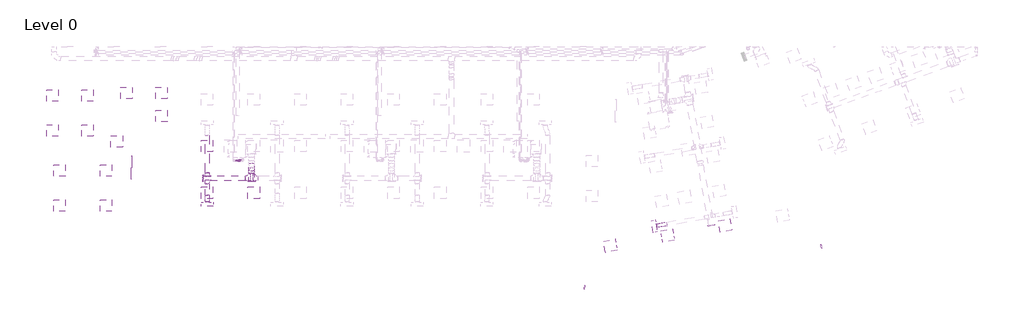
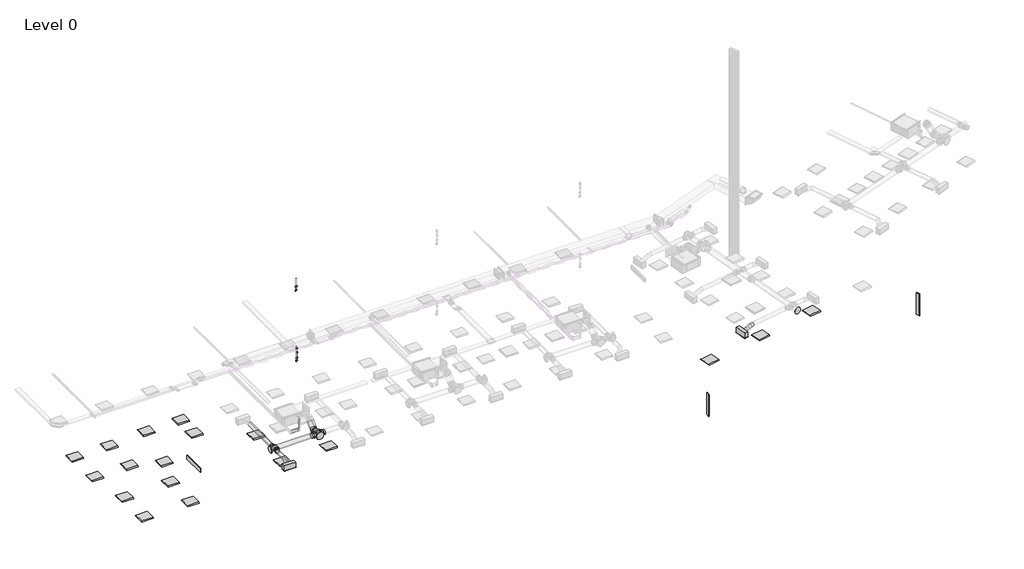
# One storey, part 1 of 34: 21 light fixtures, 8 duct fittings, 8 pipe segments, 7 duct segments, 6 pipe fittings, 2 air terminals.
"""IFC4 building model written with IfcOpenShell, lengths in millimetres."""

from ifc_helpers import new_model, si_unit, point, frame, frame_2d, origin, place, context, project, spatial, circle_curve, ellipse_curve, trimmed, segment, composite_curve, outline, extrude, transform, mapped, element, save
from ifc_brep_helpers import plane_surface, cylinder_surface, advanced_brep
from components import supply_diffuser_with_plenum_linear_slot_hosted_8c379eed, dw144_round_blank_end_standard_f82b0856, dw144_round_blank_end_standard_9aa061e7, dw144_round_segmented_bend_slip_joint_standard_8b80c5ae, dw144_round_shoe_branch_slip_joint1_standard_2_15a2edd8, dw144_round_shoe_branch_slip_joint1_standard_2_67b64720, light_fixture_1c7c1157, light_fixture_b730b5ca, light_fixture_64c2163c, elbow_threaded_gmi_standard_b4aa7741

model = new_model("IFC4")

# Units and contexts
model_context = context("Model", 3, world=origin())
ifc_project = project(units=[si_unit("LENGTHUNIT", "METRE", prefix="MILLI")], contexts=[model_context])

# Site, building, storey
site = spatial("IfcSite", under=ifc_project)
building = spatial("IfcBuilding", under=site)
storey = spatial("IfcBuildingStorey", under=building, Name="Level 0", Elevation=0.0)

# Air terminals
placement = place(None, origin())
supply_diffuser_with_plenum_linear_slot_hosted_shape = supply_diffuser_with_plenum_linear_slot_hosted_8c379eed(model_context)
element("IfcAirTerminal", 1, ObjectType="Supply Diffuser with Plenum - Linear Slot - Hosted : 24\" x 8\"-200 In Inlet  4-Slot", at=placement, inside=storey, context=model_context, shape_type="MappedRepresentation", body=[
    mapped(supply_diffuser_with_plenum_linear_slot_hosted_shape, transform((9162.2000027, 963.2000004, 2800.0), x_axis=(1.0, 0.0, 0.0), y_axis=(0.0, -1.0, 0.0), z_axis=(0.0, 0.0, -1.0))),
])
element("IfcAirTerminal", 2, ObjectType="Supply Diffuser with Plenum - Linear Slot - Hosted : 24\" x 8\"-200 In Inlet  4-Slot", at=placement, inside=storey, context=model_context, shape_type="MappedRepresentation", body=[
    mapped(supply_diffuser_with_plenum_linear_slot_hosted_shape, transform((32172.103094, -160.2535064, 2800.0), x_axis=(0.17364817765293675, -0.9848077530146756, 0.0), y_axis=(-0.9848077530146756, -0.17364817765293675, 0.0), z_axis=(0.0, 0.0, -1.0))),
])

# Duct fittings
dw144_round_blank_end_standard_shape = dw144_round_blank_end_standard_f82b0856(model_context)
element("IfcDuctFitting", 3, ObjectType="DW144 Round Blank End : Standard", at=placement, inside=storey, context=model_context, shape_type="MappedRepresentation", body=[
    mapped(dw144_round_blank_end_standard_shape, transform((11451.4561025, 2142.9916128, 3072.2088531), x_axis=(0.0, -1.0, 0.0), y_axis=(1.0, 0.0, 0.0), z_axis=(0.0, 0.0, 1.0))),
])
dw144_round_blank_end_standard_2_shape = dw144_round_blank_end_standard_9aa061e7(model_context)
element("IfcDuctFitting", 4, ObjectType="DW144 Round Blank End : Standard", at=placement, inside=storey, context=model_context, shape_type="MappedRepresentation", body=[
    mapped(dw144_round_blank_end_standard_2_shape, transform((8961.4561025, 2306.5018192, 3072.2088531), x_axis=(-1.0, 0.0, 0.0), y_axis=(0.0, -1.0, 0.0), z_axis=(0.0, 0.0, 1.0))),
])
element("IfcDuctFitting", 5, ObjectType="DW144 Round Blank End : Standard", at=placement, inside=storey, context=model_context, shape_type="MappedRepresentation", body=[
    mapped(dw144_round_blank_end_standard_2_shape, transform((35110.8297064, -106.9527609, 3072.2088531), x_axis=(0.17364817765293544, -0.9848077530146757, 0.0), y_axis=(0.0, 0.0, -1.0), z_axis=(0.9848077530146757, 0.17364817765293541, 0.0))),
])
dw144_round_segmented_bend_slip_joint_standard_shape = dw144_round_segmented_bend_slip_joint_standard_8b80c5ae(model_context)
element("IfcDuctFitting", 6, ObjectType="DW144 Round Segmented Bend - Slip Joint : Standard", at=placement, inside=storey, context=model_context, shape_type="MappedRepresentation", body=[
    mapped(dw144_round_segmented_bend_slip_joint_standard_shape, transform((11451.4561025, 2678.6338536, 3072.2088531), x_axis=(0.0, -0.7071067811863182, -0.7071067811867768), y_axis=(0.0, 0.7071067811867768, -0.7071067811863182), z_axis=(1.0, 0.0, 0.0))),
])
dw144_round_shoe_branch_slip_joint1_standard_2_shape = dw144_round_shoe_branch_slip_joint1_standard_2_15a2edd8(model_context)
element("IfcDuctFitting", 7, ObjectType="DW144 Round Shoe Branch - Slip Joint1 : Standard 2", at=placement, inside=storey, context=model_context, shape_type="MappedRepresentation", body=[
    mapped(dw144_round_shoe_branch_slip_joint1_standard_2_shape, transform((9173.9000022, 2181.5018192, 3072.2088531), x_axis=(0.0, -1.0, 0.0), y_axis=(-1.0, 0.0, 0.0), z_axis=(0.0, 0.0, -1.0))),
])
element("IfcDuctFitting", 8, ObjectType="DW144 Round Shoe Branch - Slip Joint1 : Standard 2", at=placement, inside=storey, context=model_context, shape_type="MappedRepresentation", body=[
    mapped(dw144_round_shoe_branch_slip_joint1_standard_2_shape, transform((9173.9000022, 2431.5018192, 3072.2088531), x_axis=(0.0, 1.0, 0.0), y_axis=(-1.0, 0.0, 0.0), z_axis=(0.0, 0.0, 1.0))),
])
dw144_round_shoe_branch_slip_joint1_standard_2_2_shape = dw144_round_shoe_branch_slip_joint1_standard_2_67b64720(model_context)
element("IfcDuctFitting", 9, ObjectType="DW144 Round Shoe Branch - Slip Joint1 : Standard 2", at=placement, inside=storey, context=model_context, shape_type="MappedRepresentation", body=[
    mapped(dw144_round_shoe_branch_slip_joint1_standard_2_2_shape, transform((11601.4561025, 2306.5018192, 3072.2088531), x_axis=(1.0, 0.0, 0.0), y_axis=(0.0, -1.0, 0.0), z_axis=(0.0, 0.0, -1.0))),
])
element("IfcDuctFitting", 10, ObjectType="DW144 Round Shoe Branch - Slip Joint1 : Standard 2", at=placement, inside=storey, context=model_context, shape_type="MappedRepresentation", body=[
    mapped(dw144_round_shoe_branch_slip_joint1_standard_2_2_shape, transform((11301.4561025, 2306.5018192, 3072.2088531), x_axis=(-1.0, 0.0, 0.0), y_axis=(0.0, -1.0, 0.0), z_axis=(0.0, 0.0, 1.0))),
])

# Duct segments
element("IfcDuctSegment", 11, ObjectType="DW144 Segmented Bend / Shoe Branch", at=placement, inside=storey, context=model_context, shape_type="SweptSolid", body=[
    extrude(outline(composite_curve([segment(trimmed(circle_curve(frame_2d((3072.2088531, 11451.4561025)), 150.0), [point((3072.2088531, 11301.4561025))], [point((2922.2088531, 11451.4561025))], False, "CARTESIAN"), True, "CONTINUOUS"), segment(trimmed(circle_curve(frame_2d((3072.2088531, 11451.4561025)), 150.0), [point((2922.2088531, 11451.4561025))], [point((3072.2088531, 11601.4561025))], False, "CARTESIAN"), True, "CONTINUOUS"), segment(trimmed(circle_curve(frame_2d((3072.2088531, 11451.4561025)), 150.0), [point((3072.2088531, 11601.4561025))], [point((3222.2088531, 11451.4561025))], False, "CARTESIAN"), True, "CONTINUOUS"), segment(trimmed(circle_curve(frame_2d((3072.2088531, 11451.4561025)), 150.0), [point((3222.2088531, 11451.4561025))], [point((3072.2088531, 11301.4561025))], False, "CARTESIAN"), True, "CONTINUOUS")], self_intersect=False)), frame((0.0, 2142.9916128, 0.0), z_axis=(0.0, 1.0, 0.0), x_axis=(0.0, 0.0, 1.0)), (0.0, 0.0, 1.0), 411.3781721),
])
element("IfcDuctSegment", 12, ObjectType="DW144 Segmented Bend / Shoe Branch", at=placement, inside=storey, context=model_context, shape_type="SweptSolid", body=[
    extrude(outline(composite_curve([segment(trimmed(circle_curve(frame_2d((0.0, -150.0)), 150.0), [point((-150.0, -150.0))], [point((0.0, 0.0))], False, "CARTESIAN"), True, "CONTINUOUS"), segment(trimmed(circle_curve(frame_2d((0.0, -150.0)), 150.0), [point((0.0, 0.0))], [point((150.0, -150.0))], False, "CARTESIAN"), True, "CONTINUOUS"), segment(trimmed(circle_curve(frame_2d((0.0, -150.0)), 150.0), [point((150.0, -150.0))], [point((0.0, -300.0))], False, "CARTESIAN"), True, "CONTINUOUS"), segment(trimmed(circle_curve(frame_2d((0.0, -150.0)), 150.0), [point((0.0, -300.0))], [point((-150.0, -150.0))], False, "CARTESIAN"), True, "CONTINUOUS")], self_intersect=False)), frame((11451.4561025, 2872.5678364, 3054.0108016), z_axis=(0.0, 0.7071067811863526, 0.7071067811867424), x_axis=(1.0, 0.0, 0.0)), (0.0, 0.0, 1.0), 313.4324567),
])
element("IfcDuctSegment", 13, ObjectType="DW144 Segmented Bend / Shoe Branch", at=placement, inside=storey, context=model_context, shape_type="SweptSolid", body=[
    extrude(outline(composite_curve([segment(trimmed(circle_curve(frame_2d((2306.5018192, 3072.2088531)), 125.0), [point((2431.5018192, 3072.2088531))], [point((2306.5018192, 2947.2088531))], False, "CARTESIAN"), True, "CONTINUOUS"), segment(trimmed(circle_curve(frame_2d((2306.5018192, 3072.2088531)), 125.0), [point((2306.5018192, 2947.2088531))], [point((2181.5018192, 3072.2088531))], False, "CARTESIAN"), True, "CONTINUOUS"), segment(trimmed(circle_curve(frame_2d((2306.5018192, 3072.2088531)), 125.0), [point((2181.5018192, 3072.2088531))], [point((2306.5018192, 3197.2088531))], False, "CARTESIAN"), True, "CONTINUOUS"), segment(trimmed(circle_curve(frame_2d((2306.5018192, 3072.2088531)), 125.0), [point((2306.5018192, 3197.2088531))], [point((2431.5018192, 3072.2088531))], False, "CARTESIAN"), True, "CONTINUOUS")], self_intersect=False)), frame((8961.4561025, 0.0, 0.0), z_axis=(1.0, 0.0, 0.0), x_axis=(0.0, 1.0, 0.0)), (0.0, 0.0, 1.0), 2165.0),
])
element("IfcDuctSegment", 14, ObjectType="DW144 Segmented Bend / Shoe Branch", at=placement, inside=storey, context=model_context, shape_type="SweptSolid", body=[
    extrude(outline(composite_curve([segment(trimmed(circle_curve(frame_2d((3072.2088531, 9173.9000022)), 100.0), [point((3072.2088531, 9273.9000022))], [point((3172.2088531, 9173.9000022))], False, "CARTESIAN"), True, "CONTINUOUS"), segment(trimmed(circle_curve(frame_2d((3072.2088531, 9173.9000022)), 100.0), [point((3172.2088531, 9173.9000022))], [point((3072.2088531, 9073.9000022))], False, "CARTESIAN"), True, "CONTINUOUS"), segment(trimmed(circle_curve(frame_2d((3072.2088531, 9173.9000022)), 100.0), [point((3072.2088531, 9073.9000022))], [point((2972.2088531, 9173.9000022))], False, "CARTESIAN"), True, "CONTINUOUS"), segment(trimmed(circle_curve(frame_2d((3072.2088531, 9173.9000022)), 100.0), [point((2972.2088531, 9173.9000022))], [point((3072.2088531, 9273.9000022))], False, "CARTESIAN"), True, "CONTINUOUS")], self_intersect=False)), frame((0.0, 1441.5018192, 0.0), z_axis=(0.0, 1.0, 0.0), x_axis=(0.0, 0.0, 1.0)), (0.0, 0.0, 1.0), 590.0),
])
element("IfcDuctSegment", 15, ObjectType="DW144 Segmented Bend / Shoe Branch", at=placement, inside=storey, context=model_context, shape_type="SweptSolid", body=[
    extrude(outline(composite_curve([segment(trimmed(circle_curve(frame_2d((3072.2088531, 9173.9000022)), 100.0), [point((3072.2088531, 9273.9000022))], [point((3172.2088531, 9173.9000022))], False, "CARTESIAN"), True, "CONTINUOUS"), segment(trimmed(circle_curve(frame_2d((3072.2088531, 9173.9000022)), 100.0), [point((3172.2088531, 9173.9000022))], [point((3072.2088531, 9073.9000022))], False, "CARTESIAN"), True, "CONTINUOUS"), segment(trimmed(circle_curve(frame_2d((3072.2088531, 9173.9000022)), 100.0), [point((3072.2088531, 9073.9000022))], [point((2972.2088531, 9173.9000022))], False, "CARTESIAN"), True, "CONTINUOUS"), segment(trimmed(circle_curve(frame_2d((3072.2088531, 9173.9000022)), 100.0), [point((2972.2088531, 9173.9000022))], [point((3072.2088531, 9273.9000022))], False, "CARTESIAN"), True, "CONTINUOUS")], self_intersect=False)), frame((0.0, 2581.5018192, 0.0), z_axis=(0.0, 1.0, 0.0), x_axis=(0.0, 0.0, 1.0)), (0.0, 0.0, 1.0), 1950.0),
])
element("IfcDuctSegment", 16, ObjectType="Flex - Round", at=placement, inside=storey, context=model_context, shape_type="AdvancedBrep", body=[
    advanced_brep(
    [(9273.9000022, 1441.5018192, 3072.2088531), (9173.9000022, 1441.5018192, 2972.2088531), (9073.9000022, 1441.5018192, 3072.2088531), (9173.9000022, 1441.5018192, 3172.2088531), (9273.9000022, 1419.9886644, 3072.2088531), (9173.9000022, 1434.4041273, 2972.2088531), (9073.9000022, 1422.5932881, 3072.2088531), (9173.9000022, 1408.1778252, 3172.2088531), (9262.2000027, 1092.1000004, 2954.4), (9162.2000027, 1092.1000004, 3054.4), (9062.2000027, 1092.1000004, 2954.4), (9162.2000027, 1092.1000004, 2854.4), (9272.0154345, 1348.8904029, 3053.2328893), (9172.6402079, 1386.8764181, 2959.5238159), (9072.1283201, 1355.7538157, 3054.3695504), (9171.5035467, 1317.7678004, 3148.0786237), (9267.9552415, 1262.5544078, 3012.3502664), (9169.0041626, 1309.5595036, 2922.9119919), (9068.1447633, 1271.0474118, 3014.2585867), (9167.0958423, 1224.0423161, 3103.6968612), (9263.9716847, 1177.8480039, 2972.2393027), (9164.5964582, 1215.8340192, 2878.5302294), (9064.0845704, 1184.7114168, 2973.3759639), (9163.459797, 1146.7254015, 3067.0850372), (9262.2000027, 1111.0085316, 2954.4), (9162.2000027, 1125.4239944, 2854.4), (9062.2000027, 1113.6131552, 2954.4), (9162.2000027, 1099.1976924, 3054.4)],
    [
        (0, 1, circle_curve(frame((9173.9000022, 1441.5018192, 3072.2088531), z_axis=(0.0, 1.0, 0.0), x_axis=(1.0, 0.0, 0.0)), 100.0)),
        (1, 2, circle_curve(frame((9173.9000022, 1441.5018192, 3072.2088531), z_axis=(0.0, 1.0, 0.0), x_axis=(1.0, 0.0, 0.0)), 100.0)),
        (2, 3, circle_curve(frame((9173.9000022, 1441.5018192, 3072.2088531), z_axis=(0.0, 1.0, 0.0), x_axis=(1.0, 0.0, 0.0)), 100.0)),
        (3, 0, circle_curve(frame((9173.9000022, 1441.5018192, 3072.2088531), z_axis=(0.0, 1.0, 0.0), x_axis=(1.0, 0.0, 0.0)), 100.0)),
        (0, 4),
        (4, 5, ellipse_curve(frame((9173.9000022, 1421.2909763, 3072.2088531), z_axis=(0.012911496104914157, 0.9914289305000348, 0.13000757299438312), x_axis=(-0.0979801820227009, 0.13064714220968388, -0.9865754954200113)), 100.8645168, 100.0)),
        (5, 1),
        (5, 6, ellipse_curve(frame((9173.9000022, 1421.2909763, 3072.2088531), z_axis=(0.012911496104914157, 0.9914289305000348, 0.13000757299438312), x_axis=(-0.0979801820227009, 0.13064714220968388, -0.9865754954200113)), 100.8645168, 100.0)),
        (6, 2),
        (6, 7, ellipse_curve(frame((9173.9000022, 1421.2909763, 3072.2088531), z_axis=(0.012911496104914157, 0.9914289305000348, 0.13000757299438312), x_axis=(-0.0979801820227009, 0.13064714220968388, -0.9865754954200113)), 100.8645168, 100.0)),
        (7, 3),
        (7, 4, ellipse_curve(frame((9173.9000022, 1421.2909763, 3072.2088531), z_axis=(0.012911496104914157, 0.9914289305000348, 0.13000757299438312), x_axis=(-0.0979801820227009, 0.13064714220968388, -0.9865754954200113)), 100.8645168, 100.0)),
        (8, 9, circle_curve(frame((9162.2000027, 1092.1000004, 2954.4), z_axis=(0.0, -1.0, 0.0), x_axis=(1.0, 0.0, 0.0)), 100.0)),
        (9, 10, circle_curve(frame((9162.2000027, 1092.1000004, 2954.4), z_axis=(0.0, -1.0, 0.0), x_axis=(1.0, 0.0, 0.0)), 100.0)),
        (10, 11, circle_curve(frame((9162.2000027, 1092.1000004, 2954.4), z_axis=(0.0, -1.0, 0.0), x_axis=(1.0, 0.0, 0.0)), 100.0)),
        (11, 8, circle_curve(frame((9162.2000027, 1092.1000004, 2954.4), z_axis=(0.0, -1.0, 0.0), x_axis=(1.0, 0.0, 0.0)), 100.0)),
        (4, 12),
        (12, 13, ellipse_curve(frame((9172.0718773, 1352.3221093, 3053.8012198), z_axis=(0.03417490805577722, 0.9383065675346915, 0.34411169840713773), x_axis=(-0.0927302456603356, 0.3458045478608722, -0.9337131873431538)), 100.4159667, 100.0)),
        (13, 5),
        (13, 14, ellipse_curve(frame((9172.0718773, 1352.3221093, 3053.8012198), z_axis=(0.03417490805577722, 0.9383065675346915, 0.34411169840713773), x_axis=(-0.0927302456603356, 0.3458045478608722, -0.9337131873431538)), 100.4159667, 100.0)),
        (14, 6),
        (14, 15, ellipse_curve(frame((9172.0718773, 1352.3221093, 3053.8012198), z_axis=(0.03417490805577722, 0.9383065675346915, 0.34411169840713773), x_axis=(-0.0927302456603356, 0.3458045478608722, -0.9337131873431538)), 100.4159667, 100.0)),
        (15, 7),
        (15, 12, ellipse_curve(frame((9172.0718773, 1352.3221093, 3053.8012198), z_axis=(0.03417490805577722, 0.9383065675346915, 0.34411169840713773), x_axis=(-0.0927302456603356, 0.3458045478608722, -0.9337131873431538)), 100.4159667, 100.0)),
        (12, 16),
        (16, 17, circle_curve(frame((9168.0500024, 1266.8009098, 3013.3044266), z_axis=(0.04246501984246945, 0.9029767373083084, 0.4275859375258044), x_axis=(0.9990523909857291, -0.04246501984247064, -0.009541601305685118)), 100.0)),
        (17, 13),
        (17, 18, circle_curve(frame((9168.0500024, 1266.8009098, 3013.3044266), z_axis=(0.04246501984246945, 0.9029767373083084, 0.4275859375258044), x_axis=(0.9990523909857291, -0.04246501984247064, -0.009541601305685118)), 100.0)),
        (18, 14),
        (18, 19, circle_curve(frame((9168.0500024, 1266.8009098, 3013.3044266), z_axis=(0.04246501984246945, 0.9029767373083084, 0.4275859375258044), x_axis=(0.9990523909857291, -0.04246501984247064, -0.009541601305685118)), 100.0)),
        (19, 15),
        (19, 16, circle_curve(frame((9168.0500024, 1266.8009098, 3013.3044266), z_axis=(0.04246501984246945, 0.9029767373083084, 0.4275859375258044), x_axis=(0.9990523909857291, -0.04246501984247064, -0.009541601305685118)), 100.0)),
        (16, 20),
        (20, 21, ellipse_curve(frame((9164.0281276, 1181.2797104, 2972.8076333), z_axis=(0.034174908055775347, 0.9383065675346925, 0.3441116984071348), x_axis=(0.09273024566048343, -0.34580454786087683, 0.9337131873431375)), 100.4159667, 100.0)),
        (21, 17),
        (21, 22, ellipse_curve(frame((9164.0281276, 1181.2797104, 2972.8076333), z_axis=(0.034174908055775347, 0.9383065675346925, 0.3441116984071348), x_axis=(0.09273024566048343, -0.34580454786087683, 0.9337131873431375)), 100.4159667, 100.0)),
        (22, 18),
        (22, 23, ellipse_curve(frame((9164.0281276, 1181.2797104, 2972.8076333), z_axis=(0.034174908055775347, 0.9383065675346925, 0.3441116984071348), x_axis=(0.09273024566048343, -0.34580454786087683, 0.9337131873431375)), 100.4159667, 100.0)),
        (23, 19),
        (23, 20, ellipse_curve(frame((9164.0281276, 1181.2797104, 2972.8076333), z_axis=(0.034174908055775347, 0.9383065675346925, 0.3441116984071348), x_axis=(0.09273024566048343, -0.34580454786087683, 0.9337131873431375)), 100.4159667, 100.0)),
        (20, 24),
        (24, 25, ellipse_curve(frame((9162.2000027, 1112.3108434, 2954.4), z_axis=(0.012911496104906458, 0.9914289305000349, 0.1300075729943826), x_axis=(0.09798018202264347, -0.13064714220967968, 0.9865754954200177)), 100.8645168, 100.0)),
        (25, 21),
        (25, 26, ellipse_curve(frame((9162.2000027, 1112.3108434, 2954.4), z_axis=(0.012911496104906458, 0.9914289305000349, 0.1300075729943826), x_axis=(0.09798018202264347, -0.13064714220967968, 0.9865754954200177)), 100.8645168, 100.0)),
        (26, 22),
        (26, 27, ellipse_curve(frame((9162.2000027, 1112.3108434, 2954.4), z_axis=(0.012911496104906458, 0.9914289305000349, 0.1300075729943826), x_axis=(0.09798018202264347, -0.13064714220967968, 0.9865754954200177)), 100.8645168, 100.0)),
        (27, 23),
        (27, 24, ellipse_curve(frame((9162.2000027, 1112.3108434, 2954.4), z_axis=(0.012911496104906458, 0.9914289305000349, 0.1300075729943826), x_axis=(0.09798018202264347, -0.13064714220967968, 0.9865754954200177)), 100.8645168, 100.0)),
        (24, 8),
        (11, 25),
        (10, 26),
        (9, 27),
    ],
    [
        plane_surface(frame((9073.9000022, 1441.5018192, 3072.2088531), z_axis=(0.0, 1.0, 0.0), x_axis=(0.0, 0.0, -1.0))),
        cylinder_surface(frame((9173.9000022, 1441.5018192, 3072.2088531), z_axis=(0.0, 1.0, 0.0), x_axis=(1.0, 0.0, 0.0)), 100.0),
        plane_surface(frame((9062.2000027, 1092.1000004, 2954.4), z_axis=(0.0, -1.0, 0.0), x_axis=(0.0, 0.0, -1.0))),
        cylinder_surface(frame((9173.9000022, 1421.2909763, 3072.2088531), z_axis=(0.02560166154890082, 0.965862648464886, 0.25778653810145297), x_axis=(0.9996665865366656, -0.02560166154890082, -0.003357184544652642)), 100.0),
        cylinder_surface(frame((9172.0718773, 1352.3221093, 3053.8012198), z_axis=(0.04246501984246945, 0.9029767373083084, 0.4275859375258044), x_axis=(0.9990523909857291, -0.04246501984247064, -0.009541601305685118)), 100.0),
        cylinder_surface(frame((9168.0500024, 1266.8009098, 3013.3044266), z_axis=(0.04246501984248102, 0.90297673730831, 0.4275859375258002), x_axis=(0.9990523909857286, -0.042465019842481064, -0.00954160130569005)), 100.0),
        cylinder_surface(frame((9164.0281276, 1181.2797104, 2972.8076333), z_axis=(0.02560166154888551, 0.9658626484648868, 0.2577865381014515), x_axis=(0.999666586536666, -0.025601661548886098, -0.0033571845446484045)), 100.0),
        cylinder_surface(frame((9162.2000027, 1112.3108434, 2954.4), z_axis=(0.0, 1.0, 0.0), x_axis=(1.0, 0.0, 0.0)), 100.0),
    ],
    [
        (0, [[1, 2, 3, 4]]),
        (1, [[-1, 5, 6, 7]]),
        (1, [[-2, -7, 8, 9]]),
        (1, [[-3, -9, 10, 11]]),
        (1, [[-4, -11, 12, -5]]),
        (2, [[13, 14, 15, 16]]),
        (3, [[-6, 17, 18, 19]]),
        (3, [[-8, -19, 20, 21]]),
        (3, [[-10, -21, 22, 23]]),
        (3, [[-12, -23, 24, -17]]),
        (4, [[-18, 25, 26, 27]]),
        (4, [[-20, -27, 28, 29]]),
        (4, [[-22, -29, 30, 31]]),
        (4, [[-24, -31, 32, -25]]),
        (5, [[-26, 33, 34, 35]]),
        (5, [[-28, -35, 36, 37]]),
        (5, [[-30, -37, 38, 39]]),
        (5, [[-32, -39, 40, -33]]),
        (6, [[-34, 41, 42, 43]]),
        (6, [[-36, -43, 44, 45]]),
        (6, [[-38, -45, 46, 47]]),
        (6, [[-40, -47, 48, -41]]),
        (7, [[-42, 49, -16, 50]]),
        (7, [[-44, -50, -15, 51]]),
        (7, [[-46, -51, -14, 52]]),
        (7, [[-48, -52, -13, -49]]),
    ],
),
])
element("IfcDuctSegment", 17, ObjectType="Flex - Round", at=placement, inside=storey, context=model_context, shape_type="AdvancedBrep", body=[
    advanced_brep(
    [(32832.8785941, -145.2836188, 3072.2088531), (32815.5137763, -46.8028435, 2972.2088531), (32798.1489586, 51.6779318, 3072.2088531), (32815.5137763, -46.8028435, 3172.2088531), (32819.3106048, -147.6760213, 3072.2088531), (32809.5455151, -47.8552089, 2972.2088531), (32784.5809693, 49.2855293, 3072.2088531), (32794.3460591, -50.5352831, 3172.2088531), (32316.4096312, -236.3510316, 2954.4), (32299.0448134, -137.8702563, 3054.4), (32281.6799956, -39.389481, 2954.4), (32299.0448134, -137.8702563, 2854.4), (32702.5547132, -168.2632352, 3053.8012198), (32707.5239218, -65.8443685, 2956.1242166), (32667.8250777, 28.6983154, 3053.8012198), (32662.8558691, -73.7205513, 3151.478223), (32574.6441126, -190.8173252, 3013.3044266), (32586.5930356, -87.1677465, 2917.8372171), (32539.9144771, 6.1442254, 3013.3044266), (32527.9655541, -97.5053533, 3108.771636), (32446.7335121, -213.3714152, 2972.8076333), (32451.7027206, -110.9525485, 2875.1306301), (32412.0038765, -16.4098646, 2972.8076333), (32407.0346679, -118.8287313, 3070.4846365), (32329.9776204, -233.958629, 2954.4), (32320.2125306, -134.1378166, 2854.4), (32295.2479849, -36.9970784, 2954.4), (32305.0130746, -136.8178908, 3054.4)],
    [
        (0, 1, circle_curve(frame((32815.5137763, -46.8028435, 3072.2088531), z_axis=(0.9848077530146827, 0.17364817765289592, 0.0), x_axis=(0.17364817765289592, -0.9848077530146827, 0.0)), 100.0)),
        (1, 2, circle_curve(frame((32815.5137763, -46.8028435, 3072.2088531), z_axis=(0.9848077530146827, 0.17364817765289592, 0.0), x_axis=(0.17364817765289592, -0.9848077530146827, 0.0)), 100.0)),
        (2, 3, circle_curve(frame((32815.5137763, -46.8028435, 3072.2088531), z_axis=(0.9848077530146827, 0.17364817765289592, 0.0), x_axis=(0.17364817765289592, -0.9848077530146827, 0.0)), 100.0)),
        (3, 0, circle_curve(frame((32815.5137763, -46.8028435, 3072.2088531), z_axis=(0.9848077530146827, 0.17364817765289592, 0.0), x_axis=(0.17364817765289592, -0.9848077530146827, 0.0)), 100.0)),
        (0, 4),
        (4, 5, ellipse_curve(frame((32801.9457871, -49.195246, 3072.2088531), z_axis=(0.9818884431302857, 0.17313342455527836, 0.07694090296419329), x_axis=(0.07577199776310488, 0.013360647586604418, -0.997035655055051)), 100.2973158, 100.0)),
        (5, 1),
        (5, 6, ellipse_curve(frame((32801.9457871, -49.195246, 3072.2088531), z_axis=(0.9818884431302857, 0.17313342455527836, 0.07694090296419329), x_axis=(0.07577199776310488, 0.013360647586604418, -0.997035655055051)), 100.2973158, 100.0)),
        (6, 2),
        (6, 7, ellipse_curve(frame((32801.9457871, -49.195246, 3072.2088531), z_axis=(0.9818884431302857, 0.17313342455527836, 0.07694090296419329), x_axis=(0.07577199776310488, 0.013360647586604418, -0.997035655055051)), 100.2973158, 100.0)),
        (7, 3),
        (7, 4, ellipse_curve(frame((32801.9457871, -49.195246, 3072.2088531), z_axis=(0.9818884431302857, 0.17313342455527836, 0.07694090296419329), x_axis=(0.07577199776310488, 0.013360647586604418, -0.997035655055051)), 100.2973158, 100.0)),
        (8, 9, circle_curve(frame((32299.0448134, -137.8702563, 2954.4), z_axis=(-0.9848077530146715, -0.17364817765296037, 0.0), x_axis=(0.17364817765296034, -0.9848077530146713, 0.0)), 100.0)),
        (9, 10, circle_curve(frame((32299.0448134, -137.8702563, 2954.4), z_axis=(-0.9848077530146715, -0.17364817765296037, 0.0), x_axis=(0.17364817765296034, -0.9848077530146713, 0.0)), 100.0)),
        (10, 11, circle_curve(frame((32299.0448134, -137.8702563, 2954.4), z_axis=(-0.9848077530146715, -0.17364817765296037, 0.0), x_axis=(0.17364817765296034, -0.9848077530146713, 0.0)), 100.0)),
        (11, 8, circle_curve(frame((32299.0448134, -137.8702563, 2954.4), z_axis=(-0.9848077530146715, -0.17364817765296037, 0.0), x_axis=(0.17364817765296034, -0.9848077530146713, 0.0)), 100.0)),
        (4, 12),
        (12, 13, ellipse_curve(frame((32685.1898954, -69.7824599, 3053.8012198), z_axis=(0.9592908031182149, 0.16914885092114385, 0.22616326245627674), x_axis=(0.22272733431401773, 0.03927283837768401, -0.9740894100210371)), 100.2751926, 100.0)),
        (13, 5),
        (13, 14, ellipse_curve(frame((32685.1898954, -69.7824599, 3053.8012198), z_axis=(0.9592908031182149, 0.16914885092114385, 0.22616326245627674), x_axis=(0.22272733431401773, 0.03927283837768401, -0.9740894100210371)), 100.2751926, 100.0)),
        (14, 6),
        (14, 15, ellipse_curve(frame((32685.1898954, -69.7824599, 3053.8012198), z_axis=(0.9592908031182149, 0.16914885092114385, 0.22616326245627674), x_axis=(0.22272733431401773, 0.03927283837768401, -0.9740894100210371)), 100.2751926, 100.0)),
        (15, 7),
        (15, 12, ellipse_curve(frame((32685.1898954, -69.7824599, 3053.8012198), z_axis=(0.9592908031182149, 0.16914885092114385, 0.22616326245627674), x_axis=(0.22272733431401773, 0.03927283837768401, -0.9740894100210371)), 100.2751926, 100.0)),
        (12, 16),
        (16, 17, circle_curve(frame((32557.2792949, -92.3365499, 3013.3044266), z_axis=(0.9401684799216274, 0.16577706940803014, 0.2976595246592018), x_axis=(0.17364817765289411, -0.984807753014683, 0.0)), 100.0)),
        (17, 13),
        (17, 18, circle_curve(frame((32557.2792949, -92.3365499, 3013.3044266), z_axis=(0.9401684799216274, 0.16577706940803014, 0.2976595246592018), x_axis=(0.17364817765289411, -0.984807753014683, 0.0)), 100.0)),
        (18, 14),
        (18, 19, circle_curve(frame((32557.2792949, -92.3365499, 3013.3044266), z_axis=(0.9401684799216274, 0.16577706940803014, 0.2976595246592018), x_axis=(0.17364817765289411, -0.984807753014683, 0.0)), 100.0)),
        (19, 15),
        (19, 16, circle_curve(frame((32557.2792949, -92.3365499, 3013.3044266), z_axis=(0.9401684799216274, 0.16577706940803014, 0.2976595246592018), x_axis=(0.17364817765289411, -0.984807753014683, 0.0)), 100.0)),
        (16, 20),
        (20, 21, ellipse_curve(frame((32429.3686943, -114.8906399, 2972.8076333), z_axis=(0.959290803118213, 0.1691488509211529, 0.22616326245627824), x_axis=(-0.22272733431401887, -0.03927283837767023, 0.9740894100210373)), 100.2751926, 100.0)),
        (21, 17),
        (21, 22, ellipse_curve(frame((32429.3686943, -114.8906399, 2972.8076333), z_axis=(0.959290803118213, 0.1691488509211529, 0.22616326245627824), x_axis=(-0.22272733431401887, -0.03927283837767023, 0.9740894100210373)), 100.2751926, 100.0)),
        (22, 18),
        (22, 23, ellipse_curve(frame((32429.3686943, -114.8906399, 2972.8076333), z_axis=(0.959290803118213, 0.1691488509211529, 0.22616326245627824), x_axis=(-0.22272733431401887, -0.03927283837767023, 0.9740894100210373)), 100.2751926, 100.0)),
        (23, 19),
        (23, 20, ellipse_curve(frame((32429.3686943, -114.8906399, 2972.8076333), z_axis=(0.959290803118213, 0.1691488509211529, 0.22616326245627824), x_axis=(-0.22272733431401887, -0.03927283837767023, 0.9740894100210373)), 100.2751926, 100.0)),
        (20, 24),
        (24, 25, ellipse_curve(frame((32312.6128026, -135.4778537, 2954.4), z_axis=(0.9818884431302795, 0.1731334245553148, 0.07694090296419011), x_axis=(-0.07577199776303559, -0.013360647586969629, 0.9970356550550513)), 100.2973158, 100.0)),
        (25, 21),
        (25, 26, ellipse_curve(frame((32312.6128026, -135.4778537, 2954.4), z_axis=(0.9818884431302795, 0.1731334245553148, 0.07694090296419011), x_axis=(-0.07577199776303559, -0.013360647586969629, 0.9970356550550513)), 100.2973158, 100.0)),
        (26, 22),
        (26, 27, ellipse_curve(frame((32312.6128026, -135.4778537, 2954.4), z_axis=(0.9818884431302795, 0.1731334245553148, 0.07694090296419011), x_axis=(-0.07577199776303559, -0.013360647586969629, 0.9970356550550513)), 100.2973158, 100.0)),
        (27, 23),
        (27, 24, ellipse_curve(frame((32312.6128026, -135.4778537, 2954.4), z_axis=(0.9818884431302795, 0.1731334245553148, 0.07694090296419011), x_axis=(-0.07577199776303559, -0.013360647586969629, 0.9970356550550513)), 100.2973158, 100.0)),
        (24, 8),
        (11, 25),
        (10, 26),
        (9, 27),
    ],
    [
        plane_surface(frame((32815.5137763, -46.8028435, 2972.2088531), z_axis=(0.9848077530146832, 0.1736481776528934, 0.0), x_axis=(0.1736481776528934, -0.9848077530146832, 0.0))),
        cylinder_surface(frame((32815.5137763, -46.8028435, 3072.2088531), z_axis=(0.9848077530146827, 0.17364817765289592, 0.0), x_axis=(0.17364817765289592, -0.9848077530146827, 0.0)), 100.0),
        plane_surface(frame((32299.0448134, -137.8702563, 2854.4), z_axis=(-0.9848077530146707, -0.17364817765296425, 0.0), x_axis=(0.17364817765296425, -0.9848077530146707, 0.0))),
        cylinder_surface(frame((32801.9457871, -49.195246, 3072.2088531), z_axis=(0.9731478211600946, 0.17159221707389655, 0.15342564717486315), x_axis=(0.17364817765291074, -0.9848077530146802, 0.0)), 100.0),
        cylinder_surface(frame((32685.1898954, -69.7824599, 3053.8012198), z_axis=(0.9401684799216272, 0.1657770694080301, 0.29765952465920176), x_axis=(0.17364817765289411, -0.984807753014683, 0.0)), 100.0),
        cylinder_surface(frame((32557.2792949, -92.3365499, 3013.3044266), z_axis=(0.9401684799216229, 0.1657770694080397, 0.2976595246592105), x_axis=(0.17364817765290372, -0.9848077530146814, 0.0)), 100.0),
        cylinder_surface(frame((32429.3686943, -114.8906399, 2972.8076333), z_axis=(0.9731478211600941, 0.17159221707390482, 0.15342564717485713), x_axis=(0.17364817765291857, -0.9848077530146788, 0.0)), 100.0),
        cylinder_surface(frame((32312.6128026, -135.4778537, 2954.4), z_axis=(0.9848077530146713, 0.17364817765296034, 0.0), x_axis=(0.17364817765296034, -0.9848077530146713, 0.0)), 100.0),
    ],
    [
        (0, [[1, 2, 3, 4]]),
        (1, [[-1, 5, 6, 7]]),
        (1, [[-2, -7, 8, 9]]),
        (1, [[-3, -9, 10, 11]]),
        (1, [[-4, -11, 12, -5]]),
        (2, [[13, 14, 15, 16]]),
        (3, [[-6, 17, 18, 19]]),
        (3, [[-8, -19, 20, 21]]),
        (3, [[-10, -21, 22, 23]]),
        (3, [[-12, -23, 24, -17]]),
        (4, [[-18, 25, 26, 27]]),
        (4, [[-20, -27, 28, 29]]),
        (4, [[-22, -29, 30, 31]]),
        (4, [[-24, -31, 32, -25]]),
        (5, [[-26, 33, 34, 35]]),
        (5, [[-28, -35, 36, 37]]),
        (5, [[-30, -37, 38, 39]]),
        (5, [[-32, -39, 40, -33]]),
        (6, [[-34, 41, 42, 43]]),
        (6, [[-36, -43, 44, 45]]),
        (6, [[-38, -45, 46, 47]]),
        (6, [[-40, -47, 48, -41]]),
        (7, [[-42, 49, -16, 50]]),
        (7, [[-44, -50, -15, 51]]),
        (7, [[-46, -51, -14, 52]]),
        (7, [[-48, -52, -13, -49]]),
    ],
),
])

# Light fixtures
light_fixture_shape = light_fixture_1c7c1157(model_context)
element("IfcLightFixture", 18, ObjectType="ELEKTRA Plain Recessed Lighting Fixture : 24\" x 24\" - 230", at=placement, inside=storey, context=model_context, shape_type="MappedRepresentation", body=[
    mapped(light_fixture_shape, transform((29669.4055208, -1515.4305638, 2800.0), x_axis=(0.9848077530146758, 0.17364817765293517, 0.0), y_axis=(0.17364817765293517, -0.9848077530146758, 0.0), z_axis=(0.0, 0.0, -1.0))),
])
element("IfcLightFixture", 19, ObjectType="ELEKTRA Plain Recessed Lighting Fixture : 24\" x 24\" - 230", at=placement, inside=storey, context=model_context, shape_type="MappedRepresentation", body=[
    mapped(light_fixture_shape, transform((32623.8287798, -994.4860308, 2800.0), x_axis=(0.9848077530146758, 0.17364817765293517, 0.0), y_axis=(0.17364817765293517, -0.9848077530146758, 0.0), z_axis=(0.0, 0.0, -1.0))),
])
element("IfcLightFixture", 20, ObjectType="ELEKTRA Plain Recessed Lighting Fixture : 24\" x 24\" - 230", at=placement, inside=storey, context=model_context, shape_type="MappedRepresentation", body=[
    mapped(light_fixture_shape, transform((8862.2000027, 1263.2000004, 2800.0), x_axis=(1.0, 0.0, 0.0), y_axis=(0.0, -1.0, 0.0), z_axis=(0.0, 0.0, -1.0))),
])
element("IfcLightFixture", 21, ObjectType="ELEKTRA Plain Recessed Lighting Fixture : 24\" x 24\" - 230", at=placement, inside=storey, context=model_context, shape_type="MappedRepresentation", body=[
    mapped(light_fixture_shape, transform((11262.2000027, 1263.2000004, 2800.0), x_axis=(1.0, 0.0, 0.0), y_axis=(0.0, -1.0, 0.0), z_axis=(0.0, 0.0, -1.0))),
])
element("IfcLightFixture", 22, ObjectType="ELEKTRA Plain Recessed Lighting Fixture : 24\" x 24\" - 230", at=placement, inside=storey, context=model_context, shape_type="MappedRepresentation", body=[
    mapped(light_fixture_shape, transform((6508.9500027, 6400.6000005, 2800.0), x_axis=(1.0, 0.0, 0.0), y_axis=(0.0, -1.0, 0.0), z_axis=(0.0, 0.0, -1.0))),
])
element("IfcLightFixture", 23, ObjectType="ELEKTRA Plain Recessed Lighting Fixture : 24\" x 24\" - 230", at=placement, inside=storey, context=model_context, shape_type="MappedRepresentation", body=[
    mapped(light_fixture_shape, transform((4708.9500027, 6400.6000005, 2800.0), x_axis=(1.0, 0.0, 0.0), y_axis=(0.0, -1.0, 0.0), z_axis=(0.0, 0.0, -1.0))),
])
element("IfcLightFixture", 24, ObjectType="ELEKTRA Plain Recessed Lighting Fixture : 24\" x 24\" - 230", at=placement, inside=storey, context=model_context, shape_type="MappedRepresentation", body=[
    mapped(light_fixture_shape, transform((6508.9500027, 5200.6000005, 2800.0), x_axis=(1.0, 0.0, 0.0), y_axis=(0.0, -1.0, 0.0), z_axis=(0.0, 0.0, -1.0))),
])
element("IfcLightFixture", 25, ObjectType="ELEKTRA Plain Recessed Lighting Fixture : 24\" x 24\" - 230", at=placement, inside=storey, context=model_context, shape_type="MappedRepresentation", body=[
    mapped(light_fixture_shape, transform((899.8500022, 6263.6000007, 2800.0), x_axis=(1.0, 0.0, 0.0), y_axis=(0.0, -1.0, 0.0), z_axis=(0.0, 0.0, -1.0))),
])
element("IfcLightFixture", 26, ObjectType="ELEKTRA Plain Recessed Lighting Fixture : 24\" x 24\" - 230", at=placement, inside=storey, context=model_context, shape_type="MappedRepresentation", body=[
    mapped(light_fixture_shape, transform((2699.8500022, 6263.6000007, 2800.0), x_axis=(1.0, 0.0, 0.0), y_axis=(0.0, -1.0, 0.0), z_axis=(0.0, 0.0, -1.0))),
])
element("IfcLightFixture", 27, ObjectType="ELEKTRA Plain Recessed Lighting Fixture : 24\" x 24\" - 230", at=placement, inside=storey, context=model_context, shape_type="MappedRepresentation", body=[
    mapped(light_fixture_shape, transform((899.8500021, 4463.6000005, 2800.0), x_axis=(1.0, 0.0, 0.0), y_axis=(0.0, -1.0, 0.0), z_axis=(0.0, 0.0, -1.0))),
])
element("IfcLightFixture", 28, ObjectType="ELEKTRA Plain Recessed Lighting Fixture : 24\" x 24\" - 230", at=placement, inside=storey, context=model_context, shape_type="MappedRepresentation", body=[
    mapped(light_fixture_shape, transform((1265.1000015, 599.5000004, 2800.0), x_axis=(1.0, 0.0, 0.0), y_axis=(0.0, -1.0, 0.0), z_axis=(0.0, 0.0, -1.0))),
])
element("IfcLightFixture", 29, ObjectType="ELEKTRA Plain Recessed Lighting Fixture : 24\" x 24\" - 230", at=placement, inside=storey, context=model_context, shape_type="MappedRepresentation", body=[
    mapped(light_fixture_shape, transform((3665.1000015, 599.5000004, 2800.0), x_axis=(1.0, 0.0, 0.0), y_axis=(0.0, -1.0, 0.0), z_axis=(0.0, 0.0, -1.0))),
])
element("IfcLightFixture", 30, ObjectType="ELEKTRA Plain Recessed Lighting Fixture : 24\" x 24\" - 230", at=placement, inside=storey, context=model_context, shape_type="MappedRepresentation", body=[
    mapped(light_fixture_shape, transform((1265.1000015, 2399.5000004, 2800.0), x_axis=(1.0, 0.0, 0.0), y_axis=(0.0, -1.0, 0.0), z_axis=(0.0, 0.0, -1.0))),
])
element("IfcLightFixture", 31, ObjectType="ELEKTRA Plain Recessed Lighting Fixture : 24\" x 24\" - 230", at=placement, inside=storey, context=model_context, shape_type="MappedRepresentation", body=[
    mapped(light_fixture_shape, transform((4212.9500027, 3899.5000003, 2800.0), x_axis=(1.0, 0.0, 0.0), y_axis=(0.0, -1.0, 0.0), z_axis=(0.0, 0.0, -1.0))),
])
light_fixture_2_shape = light_fixture_b730b5ca(model_context)
element("IfcLightFixture", 32, ObjectType="ELEKTRA EM Recessed Lighting Fixture : 24\" x 24\" - 230", at=placement, inside=storey, context=model_context, shape_type="MappedRepresentation", body=[
    mapped(light_fixture_2_shape, transform((35578.2520389, -473.5414979, 2800.0), x_axis=(0.9848077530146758, 0.17364817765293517, 0.0), y_axis=(0.17364817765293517, -0.9848077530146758, 0.0), z_axis=(0.0, 0.0, -1.0))),
])
element("IfcLightFixture", 33, ObjectType="ELEKTRA EM Recessed Lighting Fixture : 24\" x 24\" - 230", at=placement, inside=storey, context=model_context, shape_type="MappedRepresentation", body=[
    mapped(light_fixture_2_shape, transform((8862.2000027, 3663.2000004, 2800.0), x_axis=(1.0, 0.0, 0.0), y_axis=(0.0, -1.0, 0.0), z_axis=(0.0, 0.0, -1.0))),
])
element("IfcLightFixture", 34, ObjectType="ELEKTRA EM Recessed Lighting Fixture : 24\" x 24\" - 230", at=placement, inside=storey, context=model_context, shape_type="MappedRepresentation", body=[
    mapped(light_fixture_2_shape, transform((2699.8500019, 4463.6000005, 2800.0), x_axis=(1.0, 0.0, 0.0), y_axis=(0.0, -1.0, 0.0), z_axis=(0.0, 0.0, -1.0))),
])
element("IfcLightFixture", 35, ObjectType="ELEKTRA EM Recessed Lighting Fixture : 24\" x 24\" - 230", at=placement, inside=storey, context=model_context, shape_type="MappedRepresentation", body=[
    mapped(light_fixture_2_shape, transform((3665.1000015, 2399.5000004, 2800.0), x_axis=(1.0, 0.0, 0.0), y_axis=(0.0, -1.0, 0.0), z_axis=(0.0, 0.0, -1.0))),
])
light_fixture_3_shape = light_fixture_64c2163c(model_context)
element("IfcLightFixture", 36, ObjectType="Plain Surface Lighting Fixture : 8\" x 48\" - 230", at=placement, inside=storey, context=model_context, shape_type="MappedRepresentation", body=[
    mapped(light_fixture_3_shape, transform((28564.8766926, -2669.6946701, 2438.8521354), x_axis=(0.0, 0.0, 1.0), y_axis=(-5.6002563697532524e-11, -1.0, 0.0), z_axis=(1.0, -5.6002563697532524e-11, 0.0))),
])
element("IfcLightFixture", 37, ObjectType="Plain Surface Lighting Fixture : 8\" x 48\" - 230", at=placement, inside=storey, context=model_context, shape_type="MappedRepresentation", body=[
    mapped(light_fixture_3_shape, transform((41007.2655529, -1794.4204217, 2438.8521354), x_axis=(0.0, 0.0, 1.0), y_axis=(-0.34202014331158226, 0.9396926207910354, 0.0), z_axis=(-0.9396926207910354, -0.34202014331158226, 0.0))),
])
element("IfcLightFixture", 38, ObjectType="Plain Surface Lighting Fixture : 8\" x 48\" - 230", at=placement, inside=storey, context=model_context, shape_type="MappedRepresentation", body=[
    mapped(light_fixture_3_shape, transform((5259.2000025, 3193.4813411, 2611.4786995), x_axis=(4.169267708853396e-11, 1.0, 0.0), y_axis=(0.0, 0.0, 1.0), z_axis=(1.0, -4.169267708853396e-11, 0.0))),
])

# Pipe fittings
elbow_threaded_gmi_standard_shape = elbow_threaded_gmi_standard_b4aa7741(model_context)
element("IfcPipeFitting", 39, ObjectType="Elbow - Threaded - GMI : Standard", at=placement, inside=storey, context=model_context, shape_type="MappedRepresentation", body=[
    mapped(elbow_threaded_gmi_standard_shape, transform((10815.2441119, 3177.232951, 10693.9343179), x_axis=(0.0, 0.0, -1.0), y_axis=(-1.0, 0.0, 0.0), z_axis=(0.0, 1.0, 0.0))),
])
element("IfcPipeFitting", 40, ObjectType="Elbow - Threaded - GMI : Standard", at=placement, inside=storey, context=model_context, shape_type="MappedRepresentation", body=[
    mapped(elbow_threaded_gmi_standard_shape, transform((10866.0441119, 3246.7427522, 10834.6193977), x_axis=(0.0, 0.0, -1.0), y_axis=(-1.0, 0.0, 0.0), z_axis=(0.0, 1.0, 0.0))),
])
element("IfcPipeFitting", 41, ObjectType="Elbow - Threaded - GMI : Standard", at=placement, inside=storey, context=model_context, shape_type="MappedRepresentation", body=[
    mapped(elbow_threaded_gmi_standard_shape, transform((10848.8561025, 3177.232951, 6793.9343179), x_axis=(0.0, 0.0, -1.0), y_axis=(-1.0, 0.0, 0.0), z_axis=(0.0, 1.0, 0.0))),
])
element("IfcPipeFitting", 42, ObjectType="Elbow - Threaded - GMI : Standard", at=placement, inside=storey, context=model_context, shape_type="MappedRepresentation", body=[
    mapped(elbow_threaded_gmi_standard_shape, transform((10899.6561025, 3246.7427522, 6880.0), x_axis=(0.0, 0.0, -1.0), y_axis=(-1.0, 0.0, 0.0), z_axis=(0.0, 1.0, 0.0))),
])
element("IfcPipeFitting", 43, ObjectType="Elbow - Threaded - GMI : Standard", at=placement, inside=storey, context=model_context, shape_type="MappedRepresentation", body=[
    mapped(elbow_threaded_gmi_standard_shape, transform((10848.8561025, 3177.232951, 7503.3911538), x_axis=(0.0, 0.0, 1.0), y_axis=(0.0, 1.0, 0.0), z_axis=(-1.0, 0.0, 0.0))),
])
element("IfcPipeFitting", 44, ObjectType="Elbow - Threaded - GMI : Standard", at=placement, inside=storey, context=model_context, shape_type="MappedRepresentation", body=[
    mapped(elbow_threaded_gmi_standard_shape, transform((10899.6561025, 3246.7427522, 7223.9911538), x_axis=(0.0, 0.0, 1.0), y_axis=(0.0, 1.0, 0.0), z_axis=(-1.0, 0.0, 0.0))),
])

# Pipe segments
element("IfcPipeSegment", 45, ObjectType="Carbon Steel - Threaded", at=placement, inside=storey, context=model_context, shape_type="SweptSolid", body=[
    extrude(outline(composite_curve([segment(trimmed(circle_curve(frame_2d((10815.2441119, 3177.232951)), 21.45), [point((10836.6941119, 3177.232951))], [point((10815.2441119, 3155.782951))], False, "CARTESIAN"), True, "CONTINUOUS"), segment(trimmed(circle_curve(frame_2d((10815.2441119, 3177.232951)), 21.45), [point((10815.2441119, 3155.782951))], [point((10793.7941119, 3177.232951))], False, "CARTESIAN"), True, "CONTINUOUS"), segment(trimmed(circle_curve(frame_2d((10815.2441119, 3177.232951)), 21.45), [point((10793.7941119, 3177.232951))], [point((10815.2441119, 3198.682951))], False, "CARTESIAN"), True, "CONTINUOUS"), segment(trimmed(circle_curve(frame_2d((10815.2441119, 3177.232951)), 21.45), [point((10815.2441119, 3198.682951))], [point((10836.6941119, 3177.232951))], False, "CARTESIAN"), True, "CONTINUOUS")], self_intersect=False)), frame((0.0, 0.0, 10738.9343179), z_axis=(0.0, 0.0, 1.0), x_axis=(1.0, 0.0, 0.0)), (0.0, 0.0, 1.0), 619.4568359),
])
element("IfcPipeSegment", 46, ObjectType="Carbon Steel - Threaded", at=placement, inside=storey, context=model_context, shape_type="SweptSolid", body=[
    extrude(outline(composite_curve([segment(trimmed(circle_curve(frame_2d((10866.0441119, 3246.7427522)), 21.45), [point((10887.4941119, 3246.7427522))], [point((10866.0441119, 3225.2927522))], False, "CARTESIAN"), True, "CONTINUOUS"), segment(trimmed(circle_curve(frame_2d((10866.0441119, 3246.7427522)), 21.45), [point((10866.0441119, 3225.2927522))], [point((10844.5941119, 3246.7427522))], False, "CARTESIAN"), True, "CONTINUOUS"), segment(trimmed(circle_curve(frame_2d((10866.0441119, 3246.7427522)), 21.45), [point((10844.5941119, 3246.7427522))], [point((10866.0441119, 3268.1927522))], False, "CARTESIAN"), True, "CONTINUOUS"), segment(trimmed(circle_curve(frame_2d((10866.0441119, 3246.7427522)), 21.45), [point((10866.0441119, 3268.1927522))], [point((10887.4941119, 3246.7427522))], False, "CARTESIAN"), True, "CONTINUOUS")], self_intersect=False)), frame((0.0, 0.0, 10879.6193977), z_axis=(0.0, 0.0, 1.0), x_axis=(1.0, 0.0, 0.0)), (0.0, 0.0, 1.0), 199.3717561),
])
element("IfcPipeSegment", 47, ObjectType="Carbon Steel - Threaded", at=placement, inside=storey, context=model_context, shape_type="SweptSolid", body=[
    extrude(outline(composite_curve([segment(trimmed(circle_curve(frame_2d((10848.8561025, 3177.232951)), 21.45), [point((10870.3061025, 3177.232951))], [point((10848.8561025, 3155.782951))], False, "CARTESIAN"), True, "CONTINUOUS"), segment(trimmed(circle_curve(frame_2d((10848.8561025, 3177.232951)), 21.45), [point((10848.8561025, 3155.782951))], [point((10827.4061025, 3177.232951))], False, "CARTESIAN"), True, "CONTINUOUS"), segment(trimmed(circle_curve(frame_2d((10848.8561025, 3177.232951)), 21.45), [point((10827.4061025, 3177.232951))], [point((10848.8561025, 3198.682951))], False, "CARTESIAN"), True, "CONTINUOUS"), segment(trimmed(circle_curve(frame_2d((10848.8561025, 3177.232951)), 21.45), [point((10848.8561025, 3198.682951))], [point((10870.3061025, 3177.232951))], False, "CARTESIAN"), True, "CONTINUOUS")], self_intersect=False)), frame((0.0, 0.0, 6838.9343179), z_axis=(0.0, 0.0, 1.0), x_axis=(1.0, 0.0, 0.0)), (0.0, 0.0, 1.0), 619.4568359),
])
element("IfcPipeSegment", 48, ObjectType="Carbon Steel - Threaded", at=placement, inside=storey, context=model_context, shape_type="SweptSolid", body=[
    extrude(outline(composite_curve([segment(trimmed(circle_curve(frame_2d((10899.6561025, 3246.7427522)), 21.45), [point((10921.1061025, 3246.7427522))], [point((10899.6561025, 3225.2927522))], False, "CARTESIAN"), True, "CONTINUOUS"), segment(trimmed(circle_curve(frame_2d((10899.6561025, 3246.7427522)), 21.45), [point((10899.6561025, 3225.2927522))], [point((10878.2061025, 3246.7427522))], False, "CARTESIAN"), True, "CONTINUOUS"), segment(trimmed(circle_curve(frame_2d((10899.6561025, 3246.7427522)), 21.45), [point((10878.2061025, 3246.7427522))], [point((10899.6561025, 3268.1927522))], False, "CARTESIAN"), True, "CONTINUOUS"), segment(trimmed(circle_curve(frame_2d((10899.6561025, 3246.7427522)), 21.45), [point((10899.6561025, 3268.1927522))], [point((10921.1061025, 3246.7427522))], False, "CARTESIAN"), True, "CONTINUOUS")], self_intersect=False)), frame((0.0, 0.0, 6925.0), z_axis=(0.0, 0.0, 1.0), x_axis=(1.0, 0.0, 0.0)), (0.0, 0.0, 1.0), 253.9911538),
])
element("IfcPipeSegment", 49, ObjectType="Carbon Steel - Threaded", at=placement, inside=storey, context=model_context, shape_type="SweptSolid", body=[
    extrude(outline(composite_curve([segment(trimmed(circle_curve(frame_2d((0.0, 21.45)), 21.45), [point((0.0, 42.9))], [point((21.45, 21.45))], False, "CARTESIAN"), True, "CONTINUOUS"), segment(trimmed(circle_curve(frame_2d((0.0, 21.45)), 21.45), [point((21.45, 21.45))], [point((0.0, 0.0))], False, "CARTESIAN"), True, "CONTINUOUS"), segment(trimmed(circle_curve(frame_2d((0.0, 21.45)), 21.45), [point((0.0, 0.0))], [point((-21.45, 21.45))], False, "CARTESIAN"), True, "CONTINUOUS"), segment(trimmed(circle_curve(frame_2d((0.0, 21.45)), 21.45), [point((-21.45, 21.45))], [point((0.0, 42.9))], False, "CARTESIAN"), True, "CONTINUOUS")], self_intersect=False)), frame((10947.4061025, 3222.232951, 3603.3911538), z_axis=(1.9436076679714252e-12, 1.0, 0.0), x_axis=(0.0, 0.0, 1.0)), (0.0, 0.0, 1.0), 49.1670495),
])
element("IfcPipeSegment", 50, ObjectType="Carbon Steel - Threaded", at=placement, inside=storey, context=model_context, shape_type="SweptSolid", body=[
    extrude(outline(composite_curve([segment(trimmed(circle_curve(frame_2d((10968.8561025, 3177.232951)), 21.45), [point((10990.3061025, 3177.232951))], [point((10968.8561025, 3155.782951))], False, "CARTESIAN"), True, "CONTINUOUS"), segment(trimmed(circle_curve(frame_2d((10968.8561025, 3177.232951)), 21.45), [point((10968.8561025, 3155.782951))], [point((10947.4061025, 3177.232951))], False, "CARTESIAN"), True, "CONTINUOUS"), segment(trimmed(circle_curve(frame_2d((10968.8561025, 3177.232951)), 21.45), [point((10947.4061025, 3177.232951))], [point((10968.8561025, 3198.682951))], False, "CARTESIAN"), True, "CONTINUOUS"), segment(trimmed(circle_curve(frame_2d((10968.8561025, 3177.232951)), 21.45), [point((10968.8561025, 3198.682951))], [point((10990.3061025, 3177.232951))], False, "CARTESIAN"), True, "CONTINUOUS")], self_intersect=False)), frame((0.0, 0.0, 2938.9343179), z_axis=(0.0, 0.0, 1.0), x_axis=(1.0, 0.0, 0.0)), (0.0, 0.0, 1.0), 619.4568359),
])
element("IfcPipeSegment", 51, ObjectType="Carbon Steel - Threaded", at=placement, inside=storey, context=model_context, shape_type="SweptSolid", body=[
    extrude(outline(composite_curve([segment(trimmed(circle_curve(frame_2d((3177.232951, 2893.9343179)), 21.45), [point((3198.682951, 2893.9343179))], [point((3177.232951, 2872.4843179))], False, "CARTESIAN"), True, "CONTINUOUS"), segment(trimmed(circle_curve(frame_2d((3177.232951, 2893.9343179)), 21.45), [point((3177.232951, 2872.4843179))], [point((3155.782951, 2893.9343179))], False, "CARTESIAN"), True, "CONTINUOUS"), segment(trimmed(circle_curve(frame_2d((3177.232951, 2893.9343179)), 21.45), [point((3155.782951, 2893.9343179))], [point((3177.232951, 2915.3843179))], False, "CARTESIAN"), True, "CONTINUOUS"), segment(trimmed(circle_curve(frame_2d((3177.232951, 2893.9343179)), 21.45), [point((3177.232951, 2915.3843179))], [point((3198.682951, 2893.9343179))], False, "CARTESIAN"), True, "CONTINUOUS")], self_intersect=False)), frame((10566.3774685, 0.0, 0.0), z_axis=(1.0, 0.0, 0.0), x_axis=(0.0, 1.0, 0.0)), (0.0, 0.0, 1.0), 357.478634),
])
element("IfcPipeSegment", 52, ObjectType="Carbon Steel - Threaded", at=placement, inside=storey, context=model_context, shape_type="SweptSolid", body=[
    extrude(outline(composite_curve([segment(trimmed(circle_curve(frame_2d((3246.7427522, 2980.0)), 21.45), [point((3268.1927522, 2980.0))], [point((3246.7427522, 2958.55))], False, "CARTESIAN"), True, "CONTINUOUS"), segment(trimmed(circle_curve(frame_2d((3246.7427522, 2980.0)), 21.45), [point((3246.7427522, 2958.55))], [point((3225.2927522, 2980.0))], False, "CARTESIAN"), True, "CONTINUOUS"), segment(trimmed(circle_curve(frame_2d((3246.7427522, 2980.0)), 21.45), [point((3225.2927522, 2980.0))], [point((3246.7427522, 3001.45))], False, "CARTESIAN"), True, "CONTINUOUS"), segment(trimmed(circle_curve(frame_2d((3246.7427522, 2980.0)), 21.45), [point((3246.7427522, 3001.45))], [point((3268.1927522, 2980.0))], False, "CARTESIAN"), True, "CONTINUOUS")], self_intersect=False)), frame((10587.0529581, 0.0, 0.0), z_axis=(1.0, 0.0, 0.0), x_axis=(0.0, 1.0, 0.0)), (0.0, 0.0, 1.0), 387.6031444),
])

save(model, "model.ifc")
